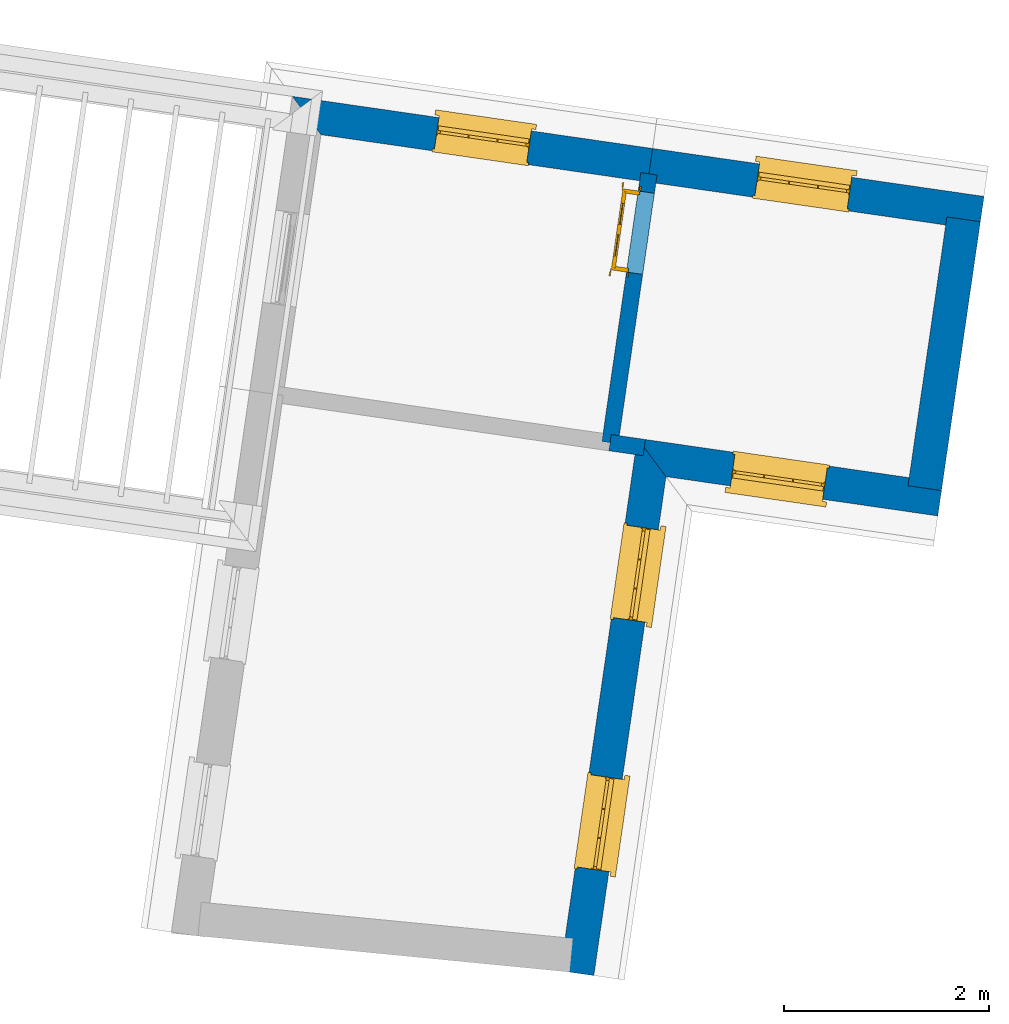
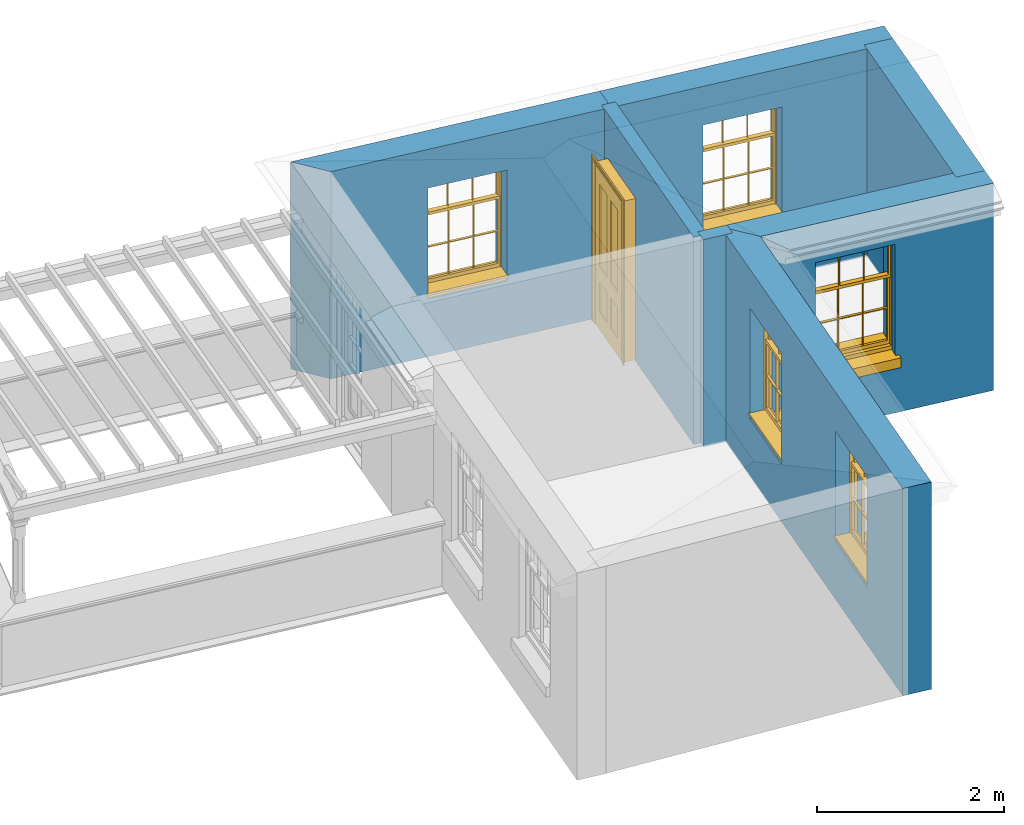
# One storey, part 3 of 4: 7 walls, 5 windows, 1 door, 6 openings.
"""IFC4 building model written with IfcOpenShell, lengths in metres."""

from ifc_helpers import new_model, si_unit, frame, origin, origin_with_axes, place, context, subcontext, project, spatial, polyline, outline, extrude, faceted_brep, source, transform, mapped, material, layer, layer_set, layer_usage, type_object, type_shapes, element, fill, save


model = new_model("IFC4")

# Units and contexts
model_context = context("Model", 3, world=origin_with_axes())
body_context = subcontext(model_context, "Body", "Model", "MODEL_VIEW")
ifc_project = project(units=[si_unit("PLANEANGLEUNIT", "RADIAN"), si_unit("MASSUNIT", "GRAM", prefix="KILO"), si_unit("FORCEUNIT", "NEWTON", prefix="KILO"), si_unit("LENGTHUNIT", "METRE"), si_unit("AREAUNIT", "SQUARE_METRE"), si_unit("VOLUMEUNIT", "CUBIC_METRE")], contexts=[model_context, model_context])

# Sites, building, storey
site_1_placement = place(None, origin_with_axes())
site_1 = spatial("IfcSite", under=ifc_project, at=site_1_placement, Name="Tamar")
site_2_placement = place(site_1_placement, origin_with_axes())
site_2 = spatial("IfcSite", under=site_1, at=site_2_placement, Name="Site plot-30", CompositionType="ELEMENT")
building_placement = place(None, origin_with_axes())
building = spatial("IfcBuilding", under=site_2, at=building_placement, Name="Building plot-30", CompositionType="ELEMENT")
storey_placement = place(None, frame((0.0, 0.0, 31.0), z_axis=(0.0, 0.0, 1.0), x_axis=(1.0, 0.0, 0.0)))
storey = spatial("IfcBuildingStorey", under=building, at=storey_placement, Name="plot-30 2", CompositionType="ELEMENT", Elevation=31.0)

# Wall, openings, windows
ifc_material_1 = material(Name="Masonry")
ifc_layer_1 = layer(ifc_material_1, 0.33, ventilated=False)
ifc_layer_set_1 = layer_set([ifc_layer_1], Name="exterior_0.08_0.25")
ifc_layer_usage_1 = layer_usage(ifc_layer_set_1, "AXIS2", "POSITIVE", -0.25)
wall_type_1 = type_object("IfcWallType", Name="exterior_0.08_0.25", PredefinedType="SOLIDWALL", material=ifc_layer_set_1)
wall_1_placement = place(storey_placement, frame((288.901284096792, 255.491842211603, 0.0), z_axis=(0.0, 0.0, 1.0), x_axis=(0.143119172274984, 0.989705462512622, 0.0)))
wall_1 = element("IfcWall", 1, at=wall_1_placement, inside=storey, type_object=wall_type_1, material=ifc_layer_usage_1, Name="exterior", context=body_context, shape_type="SweptSolid", body=[
    extrude(outline(polyline([(-0.250000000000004, 0.0800000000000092), (-0.249999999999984, -0.249999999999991), (4.66741889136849, -0.249999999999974), (4.9974188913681, 0.0800000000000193), (-0.250000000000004, 0.0800000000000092)])), origin_with_axes(), (0.0, 0.0, 1.0), 2.7),
])
opening_1_placement = place(wall_1_placement, frame((0.774354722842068, 0.0, 0.75)))
opening_1 = element("IfcOpeningElement", 2, at=opening_1_placement, cuts=wall_1, Name="My Opening", ObjectType="Opening", context=body_context, shape_type="SweptSolid", body=[
    extrude(outline(polyline([(0.0, -0.270000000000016), (0.909999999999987, -0.269999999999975), (0.909999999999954, 1.10000000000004), (-3.33066907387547e-14, 1.1), (0.0, -0.270000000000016)])), origin_with_axes(), (0.0, 0.0, 1.0), 1.445),
])
opening_2_placement = place(wall_1_placement, frame((3.23306416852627, 0.0, 0.75)))
opening_2 = element("IfcOpeningElement", 3, at=opening_2_placement, cuts=wall_1, Name="My Opening", ObjectType="Opening", context=body_context, shape_type="SweptSolid", body=[
    extrude(outline(polyline([(0.0, -0.270000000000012), (0.909999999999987, -0.269999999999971), (0.909999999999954, 1.10000000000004), (-3.37507799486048e-14, 1.1), (0.0, -0.270000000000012)])), origin_with_axes(), (0.0, 0.0, 1.0), 1.445),
])
window_type = type_object("IfcWindowType", Name="sash_shorter", PartitioningType="DOUBLE_PANEL_HORIZONTAL", PredefinedType="NOTDEFINED")
shared_shape_1 = source(origin(), body_context, "Body", "Brep", [
    faceted_brep([(0.876875, 0.145, 0.999097), (0.876875, 0.145, 1.411875), (0.9, 0.145, 1.435), (0.033125, 0.145, 1.411875), (0.033125, 0.145, 0.999097), (0.01, 0.145, 1.435), (0.033125, 0.115, 1.411875), (0.01, 0.115, 1.435), (0.033125, 0.115, 0.999097), (0.876875, 0.115, 1.411875), (0.876875, 0.115, 0.999097), (0.9, 0.115, 1.435), (0.033125, 0.145, 0.960972), (0.01, 0.145, 0.960972), (0.033125, 0.145, 0.548195), (0.876875, 0.145, 0.960972), (0.876875, 0.145, 0.548195), (0.9, 0.145, 0.960972), (0.876875, 0.145, 0.538195), (0.876875, 0.145, 0.125417), (0.9, 0.145, 0.077167), (0.033125, 0.145, 0.125417), (0.033125, 0.145, 0.538195), (0.01, 0.145, 0.077167), (0.9, 0.115, 0.960972), (0.01, 0.115, 0.960972), (-0.0425, 0.0, 0.01), (-0.0425, -0.05, 0.001667), (0.0, 0.0, 0.01), (0.9525, 0.0, 0.01), (0.91, 0.0, 0.01), (0.9525, -0.05, 0.001667), (-0.02, 0.33, 0.077167), (0.0, 0.33, 0.077167), (-0.02, 0.36, 0.077167), (0.0, 0.19, 0.077167), (0.01, 0.19, 0.077167), (0.91, 0.19, 0.077167), (0.91, 0.33, 0.077167), (0.9, 0.19, 0.077167), (0.93, 0.33, 0.077167), (0.93, 0.36, 0.077167), (0.01, 0.145, 0.999097), (0.01, 0.175, 0.999097), (0.9, 0.145, 0.999097), (0.9, 0.175, 0.999097), (0.876875, 0.175, 0.125417), (0.876875, 0.175, 0.538195), (0.9, 0.175, 0.077167), (0.876875, 0.175, 0.548195), (0.876875, 0.175, 0.960972), (0.033125, 0.175, 0.125417), (0.01, 0.175, 0.077167), (0.033125, 0.175, 0.538195), (0.033125, 0.175, 0.960972), (0.033125, 0.175, 0.548195), (-0.02, 0.33, 0.052167), (-0.02, 0.36, 0.052167), (0.93, 0.36, 0.052167), (0.93, 0.33, 0.052167), (0.91, 0.33, 0.052167), (0.0, 0.33, 0.052167), (0.91, 0.1, 0.026667), (0.0, 0.1, 0.026667), (-0.0425, -0.05, -0.123333), (0.9525, -0.05, -0.123333), (-0.0425, 0.0, -0.123333), (0.9525, 0.0, -0.123333), (0.01, 0.19, 1.435), (0.9, 0.19, 1.435), (0.0, 0.19, 1.445), (0.91, 0.19, 1.445), (0.01, 0.1, 0.077167), (0.9, 0.1, 0.077167), (0.592292, 0.145, 0.125417), (0.592292, 0.175, 0.125417), (0.317708, 0.175, 0.125417), (0.317708, 0.145, 0.125417), (0.592292, 0.145, 0.548195), (0.317708, 0.145, 0.548195), (0.317708, 0.145, 0.538195), (0.592292, 0.145, 0.538195), (0.592292, 0.175, 0.548195), (0.317708, 0.175, 0.548195), (0.602292, 0.175, 0.548195), (0.602292, 0.145, 0.548195), (0.317708, 0.175, 0.538195), (0.307708, 0.175, 0.125417), (0.307708, 0.175, 0.538195), (0.602292, 0.175, 0.538195), (0.602292, 0.175, 0.125417), (0.592292, 0.175, 0.538195), (0.307708, 0.175, 0.548195), (0.317708, 0.175, 0.960972), (0.307708, 0.175, 0.960972), (0.602292, 0.175, 0.960972), (0.592292, 0.175, 0.960972), (0.307708, 0.145, 0.538195), (0.307708, 0.145, 0.125417), (0.307708, 0.145, 0.548195), (0.307708, 0.145, 0.960972), (0.592292, 0.145, 0.960972), (0.317708, 0.145, 0.960972), (0.602292, 0.145, 0.960972), (0.602292, 0.145, 0.538195), (0.602292, 0.145, 0.125417), (0.317708, 0.115, 1.411875), (0.307708, 0.115, 1.411875), (0.307708, 0.115, 0.999097), (0.317708, 0.115, 0.999097), (0.602292, 0.115, 1.411875), (0.592292, 0.115, 1.411875), (0.592292, 0.115, 0.999097), (0.602292, 0.115, 0.999097), (0.317708, 0.145, 0.999097), (0.307708, 0.145, 0.999097), (0.307708, 0.145, 1.411875), (0.317708, 0.145, 1.411875), (0.602292, 0.145, 0.999097), (0.592292, 0.145, 0.999097), (0.592292, 0.145, 1.411875), (0.602292, 0.145, 1.411875), (0.91, 0.1, 1.445), (0.9, 0.1, 1.435), (0.01, 0.1, 1.435), (0.0, 0.1, 1.445), (0.91, 0.0, 0.0), (0.0, 0.0, 0.0), (0.91, 0.33, 0.0), (0.0, 0.33, 0.0)], [[[0, 1, 2]], [[3, 4, 5]], [[6, 7, 8]], [[9, 10, 11]], [[12, 13, 14]], [[15, 16, 17]], [[18, 19, 20]], [[21, 22, 23]], [[24, 15, 17]], [[13, 12, 25]], [[26, 27, 28]], [[29, 30, 31]], [[32, 33, 34]], [[35, 36, 33]], [[37, 38, 39]], [[40, 41, 38]], [[42, 4, 43]], [[44, 45, 0]], [[46, 47, 48]], [[49, 50, 45]], [[51, 52, 53]], [[54, 55, 43]], [[38, 33, 36, 39]], [[41, 34, 33, 38]], [[56, 32, 34, 57]], [[57, 34, 41, 58]], [[58, 41, 40, 59]], [[57, 58, 60, 61]], [[52, 48, 39, 36]], [[62, 63, 28, 30]], [[27, 31, 30, 28]], [[27, 64, 65, 31]], [[66, 67, 65, 64]], [[2, 5, 68, 69]], [[68, 70, 71, 69]], [[20, 23, 72, 73]], [[73, 72, 63, 62]], [[74, 75, 76, 77]], [[78, 79, 80, 81]], [[78, 82, 83, 79]], [[16, 49, 84, 85]], [[86, 76, 87, 88]], [[89, 90, 75, 91]], [[92, 88, 53, 55]], [[82, 91, 86, 83]], [[93, 83, 92, 94]], [[95, 84, 82, 96]], [[89, 84, 49, 47]], [[97, 88, 87, 98]], [[22, 53, 88, 97]], [[81, 91, 75, 74]], [[80, 86, 91, 81]], [[77, 76, 86, 80]], [[99, 92, 55, 14]], [[100, 94, 92, 99]], [[101, 96, 82, 78]], [[79, 83, 93, 102]], [[85, 84, 95, 103]], [[104, 89, 47, 18]], [[105, 90, 89, 104]], [[104, 18, 16, 85]], [[80, 97, 98, 77]], [[104, 81, 74, 105]], [[103, 101, 78, 85]], [[99, 14, 22, 97]], [[102, 100, 99, 79]], [[106, 107, 108, 109]], [[110, 111, 112, 113]], [[114, 115, 116, 117]], [[118, 119, 120, 121]], [[107, 116, 115, 108]], [[111, 120, 119, 112]], [[109, 114, 117, 106]], [[113, 118, 121, 110]], [[85, 78, 81, 104]], [[84, 89, 91, 82]], [[83, 86, 88, 92]], [[79, 99, 97, 80]], [[109, 112, 119, 114]], [[102, 93, 96, 101]], [[106, 117, 120, 111]], [[98, 87, 51, 21]], [[6, 3, 116, 107]], [[110, 121, 1, 9]], [[19, 46, 90, 105]], [[26, 66, 64, 27]], [[29, 31, 65, 67]], [[25, 24, 112, 109]], [[11, 7, 106, 111]], [[75, 48, 52, 76]], [[43, 45, 96, 93]], [[45, 43, 114, 119]], [[5, 2, 120, 117]], [[24, 25, 102, 101]], [[42, 5, 4]], [[2, 44, 0]], [[49, 45, 48, 47]], [[52, 43, 55, 53]], [[14, 13, 23, 22]], [[20, 17, 16, 18]], [[24, 11, 10]], [[25, 8, 7]], [[8, 4, 3, 6]], [[9, 1, 0, 10]], [[15, 50, 49, 16]], [[18, 47, 46, 19]], [[21, 51, 53, 22]], [[14, 55, 54, 12]], [[44, 2, 69, 45]], [[68, 5, 42, 43]], [[36, 35, 70, 68]], [[39, 69, 71, 37]], [[62, 122, 123, 73]], [[63, 72, 124, 125]], [[8, 108, 115, 4]], [[113, 10, 0, 118]], [[94, 100, 12, 54]], [[17, 20, 73, 24]], [[72, 23, 13, 25]], [[52, 36, 68, 43]], [[69, 39, 48, 45]], [[11, 24, 73, 123]], [[7, 124, 72, 25]], [[23, 77, 98]], [[98, 21, 23]], [[105, 74, 20]], [[20, 19, 105]], [[20, 74, 77, 23]], [[113, 112, 24]], [[24, 10, 113]], [[25, 109, 108]], [[108, 8, 25]], [[110, 9, 11]], [[11, 111, 110]], [[7, 6, 107]], [[107, 106, 7]], [[5, 117, 116]], [[116, 3, 5]], [[121, 120, 2]], [[2, 1, 121]], [[11, 123, 124, 7]], [[122, 125, 124, 123]], [[43, 93, 94]], [[94, 54, 43]], [[96, 45, 95]], [[50, 95, 45]], [[15, 103, 95, 50]], [[48, 75, 90]], [[90, 46, 48]], [[87, 76, 52]], [[52, 51, 87]], [[103, 15, 24]], [[24, 101, 103]], [[100, 102, 25]], [[25, 12, 100]], [[115, 114, 43]], [[43, 4, 115]], [[118, 0, 45]], [[45, 119, 118]], [[71, 70, 125, 122]], [[70, 35, 63, 125]], [[122, 62, 37, 71]], [[126, 67, 66, 127]], [[60, 58, 59]], [[38, 60, 59, 40]], [[61, 56, 57]], [[32, 56, 61, 33]], [[61, 60, 128, 129]], [[62, 60, 38, 37]], [[126, 128, 60, 62]], [[33, 61, 63, 35]], [[61, 129, 127, 63]], [[128, 126, 127, 129]], [[28, 127, 66, 26]], [[63, 127, 28]], [[29, 67, 126, 30]], [[30, 126, 62]]]),
])
type_shapes(window_type, [shared_shape_1])
window_1_placement = place(storey_placement, frame((289.279329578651, 256.219583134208, 0.75), z_axis=(0.0, 0.0, 1.0), x_axis=(0.130238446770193, 0.900631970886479, 0.0)))
window_1 = element("IfcWindow", 4, at=window_1_placement, inside=storey, type_object=window_type, Name="bedroom sahn window", OverallHeight=1.445, OverallWidth=0.91, context=body_context, shape_type="MappedRepresentation", body=[
    mapped(shared_shape_1, transform((0.0, 0.0, 0.0), scale=1.0)),
])
fill(opening_1, window_1)
window_2_placement = place(storey_placement, frame((289.631218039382, 258.652981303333, 0.75), z_axis=(0.0, 0.0, 1.0), x_axis=(0.130238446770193, 0.900631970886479, 0.0)))
window_2 = element("IfcWindow", 5, at=window_2_placement, inside=storey, type_object=window_type, Name="bedroom sahn window", OverallHeight=1.445, OverallWidth=0.91, context=body_context, shape_type="MappedRepresentation", body=[
    mapped(shared_shape_1, transform((0.0, 0.0, 0.0), scale=1.0)),
])
fill(opening_2, window_2)

# Wall, opening, window
wall_2_placement = place(storey_placement, frame((289.605061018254, 260.358638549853, 0.0), z_axis=(0.0, 0.0, 1.0), x_axis=(0.98970546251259, -0.143119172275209, 0.0)))
wall_2 = element("IfcWall", 6, at=wall_2_placement, inside=storey, type_object=wall_type_1, material=ifc_layer_usage_1, Name="exterior", context=body_context, shape_type="SweptSolid", body=[
    extrude(outline(polyline([(-0.0800000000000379, 0.0799999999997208), (0.250000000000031, -0.249999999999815), (2.92910276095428, -0.249999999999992), (2.92910276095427, 0.0800000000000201), (-0.0800000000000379, 0.0799999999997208)])), origin_with_axes(), (0.0, 0.0, 1.0), 2.7),
])
opening_3_placement = place(wall_2_placement, frame((0.884551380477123, 0.0, 0.75)))
opening_3 = element("IfcOpeningElement", 7, at=opening_3_placement, cuts=wall_2, Name="My Opening", ObjectType="Opening", context=body_context, shape_type="SweptSolid", body=[
    extrude(outline(polyline([(0.0, -0.270000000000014), (0.91000000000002, -0.26999999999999), (0.91000000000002, 1.10000000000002), (-1.11022302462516e-16, 1.09999999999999), (0.0, -0.270000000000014)])), origin_with_axes(), (0.0, 0.0, 1.0), 1.445),
])
window_3_placement = place(storey_placement, frame((290.441864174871, 259.964821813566, 0.75), z_axis=(0.0, 0.0, 1.0), x_axis=(0.900631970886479, -0.13023844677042, 0.0)))
window_3 = element("IfcWindow", 8, at=window_3_placement, inside=storey, type_object=window_type, Name="toilet sahn window", OverallHeight=1.445, OverallWidth=0.91, context=body_context, shape_type="MappedRepresentation", body=[
    mapped(shared_shape_1, transform((0.0, 0.0, 0.0), scale=1.0)),
])
fill(opening_3, window_3)

wall_3_placement = place(storey_placement, frame((292.635763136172, 262.59733009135, 0.0), z_axis=(0.0, 0.0, 1.0), x_axis=(-0.989705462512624, 0.143119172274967, 0.0)))
wall_3 = element("IfcWall", 9, at=wall_3_placement, inside=storey, type_object=wall_type_1, material=ifc_layer_usage_1, Name="exterior", context=body_context, shape_type="SweptSolid", body=[
    extrude(outline(polyline([(-0.249999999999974, 0.0800000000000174), (-0.249999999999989, -0.249999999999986), (3.01646015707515, -0.249999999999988), (3.01646015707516, 0.0800000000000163), (-0.249999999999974, 0.0800000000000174)])), origin_with_axes(), (0.0, 0.0, 1.0), 2.7),
])
opening_4_placement = place(wall_3_placement, frame((1.05323007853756, 0.0, 0.75)))
opening_4 = element("IfcOpeningElement", 10, at=opening_4_placement, cuts=wall_3, Name="My Opening", ObjectType="Opening", context=body_context, shape_type="SweptSolid", body=[
    extrude(outline(polyline([(0.0, -0.269999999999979), (0.909999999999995, -0.270000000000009), (0.909999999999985, 1.10000000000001), (-1.06581410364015e-14, 1.10000000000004), (0.0, -0.269999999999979)])), origin_with_axes(), (0.0, 0.0, 1.0), 1.445),
])
window_4_placement = place(storey_placement, frame((291.632017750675, 263.015287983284, 0.75), z_axis=(0.0, 0.0, 1.0), x_axis=(-0.900631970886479, 0.13023844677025, 0.0)))
window_4 = element("IfcWindow", 11, at=window_4_placement, inside=storey, type_object=window_type, Name="toilet outside window", OverallHeight=1.445, OverallWidth=0.91, context=body_context, shape_type="MappedRepresentation", body=[
    mapped(shared_shape_1, transform((0.0, 0.0, 0.0), scale=1.0)),
])
fill(opening_4, window_4)

wall_4_placement = place(storey_placement, frame((289.650356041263, 263.029043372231, 0.0), z_axis=(0.0, 0.0, 1.0), x_axis=(-0.989705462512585, 0.143119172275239, 0.0)))
wall_4 = element("IfcWall", 12, at=wall_4_placement, inside=storey, type_object=wall_type_1, material=ifc_layer_usage_1, Name="exterior", context=body_context, shape_type="SweptSolid", body=[
    extrude(outline(polyline([(-8.41503283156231e-15, 0.0800000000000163), (6.75168679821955e-14, -0.249999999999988), (3.55101735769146, -0.250000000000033), (3.22101735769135, 0.0800000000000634), (-8.41503283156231e-15, 0.0800000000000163)])), origin_with_axes(), (0.0, 0.0, 1.0), 2.7),
])
opening_5_placement = place(wall_4_placement, frame((1.19550867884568, 0.0, 0.75)))
opening_5 = element("IfcOpeningElement", 13, at=opening_5_placement, cuts=wall_4, Name="My Opening", ObjectType="Opening", context=body_context, shape_type="SweptSolid", body=[
    extrude(outline(polyline([(0.0, -0.270000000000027), (0.910000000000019, -0.269999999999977), (0.910000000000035, 1.10000000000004), (1.53210777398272e-14, 1.09999999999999), (0.0, -0.270000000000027)])), origin_with_axes(), (0.0, 0.0, 1.0), 1.445),
])
window_5_placement = place(storey_placement, frame((288.505796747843, 263.467364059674, 0.75), z_axis=(0.0, 0.0, 1.0), x_axis=(-0.900631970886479, 0.13023844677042, 0.0)))
window_5 = element("IfcWindow", 14, at=window_5_placement, inside=storey, type_object=window_type, Name="circulation outside window", OverallHeight=1.445, OverallWidth=0.91, context=body_context, shape_type="MappedRepresentation", body=[
    mapped(shared_shape_1, transform((0.0, 0.0, 0.0), scale=1.0)),
])
fill(opening_5, window_5)

# Walls
ifc_material_2 = material(Name="Masonry")
ifc_layer_2 = layer(ifc_material_2, 0.33, ventilated=False)
ifc_layer_set_2 = layer_set([ifc_layer_2], Name="party_0.08_0.25")
ifc_layer_usage_2 = layer_usage(ifc_layer_set_2, "AXIS2", "POSITIVE", -0.25)
wall_type_2 = type_object("IfcWallType", Name="party_0.08_0.25", PredefinedType="SOLIDWALL", material=ifc_layer_set_2)
wall_5_placement = place(storey_placement, frame((292.256583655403, 259.975207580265, 0.0), z_axis=(0.0, 0.0, 1.0), x_axis=(0.143119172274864, 0.98970546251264, 0.0)))
element("IfcWall", 15, at=wall_5_placement, inside=storey, type_object=wall_type_2, material=ifc_layer_usage_2, Name="party", context=body_context, shape_type="SweptSolid", body=[
    extrude(outline(polyline([(2.18540877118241e-14, 0.0800000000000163), (-2.71851560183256e-14, -0.249999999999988), (2.64939682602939, -0.249999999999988), (2.64939682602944, 0.0800000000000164), (2.18540877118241e-14, 0.0800000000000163)])), origin_with_axes(), (0.0, 0.0, 1.0), 2.7),
])
ifc_material_3 = material(Name="Masonry")
ifc_layer_3 = layer(ifc_material_3, 0.16, ventilated=False)
ifc_layer_set_3 = layer_set([ifc_layer_3], Name="interior_0.08_0.08")
ifc_layer_usage_3 = layer_usage(ifc_layer_set_3, "AXIS2", "POSITIVE", -0.08)
wall_type_3 = type_object("IfcWallType", Name="interior_0.08_0.08", PredefinedType="SOLIDWALL", material=ifc_layer_set_3)
wall_6_placement = place(storey_placement, frame((289.605061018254, 260.358638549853, 0.0), z_axis=(0.0, 0.0, 1.0), x_axis=(-0.9897054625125, 0.143119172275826, 0.0)))
element("IfcWall", 16, at=wall_6_placement, inside=storey, type_object=wall_type_3, material=ifc_layer_usage_3, Name="interior", context=body_context, shape_type="SweptSolid", body=[
    extrude(outline(polyline([(3.24642818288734e-16, 0.0800000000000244), (-3.3260921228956e-16, -0.0800000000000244), (0.33735739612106, -0.0800000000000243), (0.337357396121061, 0.0800000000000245), (3.24642818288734e-16, 0.0800000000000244)])), origin_with_axes(), (0.0, 0.0, 1.0), 2.7),
])

# Wall, opening, door
wall_7_placement = place(storey_placement, frame((289.271176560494, 260.406920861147, 0.0), z_axis=(0.0, 0.0, 1.0), x_axis=(0.143119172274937, 0.989705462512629, 0.0)))
wall_7 = element("IfcWall", 17, at=wall_7_placement, inside=storey, type_object=wall_type_3, material=ifc_layer_usage_3, Name="interior", context=body_context, shape_type="SweptSolid", body=[
    extrude(outline(polyline([(1.59743465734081e-14, 0.0800000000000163), (-1.59823129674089e-14, -0.0800000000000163), (2.64939682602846, -0.0800000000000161), (2.64939682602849, 0.0800000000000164), (1.59743465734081e-14, 0.0800000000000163)])), origin_with_axes(), (0.0, 0.0, 1.0), 2.7),
])
opening_6_placement = place(wall_7_placement, frame((1.66939682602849, 0.0, 0.0199999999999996)))
opening_6 = element("IfcOpeningElement", 18, at=opening_6_placement, cuts=wall_7, Name="My Opening", ObjectType="Opening", context=body_context, shape_type="SweptSolid", body=[
    extrude(outline(polyline([(0.0, -0.100000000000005), (0.800000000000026, -0.100000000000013), (0.800000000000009, 1.10000000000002), (-1.68753899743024e-14, 1.10000000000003), (0.0, -0.100000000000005)])), origin_with_axes(), (0.0, 0.0, 1.0), 2.1),
])
door_type = type_object("IfcDoorType", Name="door_inside", OperationType="SINGLE_SWING_LEFT", PredefinedType="NOTDEFINED")
shared_shape_2 = source(origin(), body_context, "Body", "Brep", [
    faceted_brep([(0.773, 0.33, 1.895), (0.66, 0.33, 1.895), (0.66, 0.33, 2.073), (0.773, 0.33, 2.073), (0.773, 0.33, 0.82), (0.66, 0.33, 0.82), (0.45, 0.33, 1.895), (0.45, 0.33, 2.073), (0.773, 0.33, 0.62), (0.66, 0.33, 0.62), (0.66, 0.315, 0.82), (0.66, 0.315, 1.895), (0.45, 0.315, 1.895), (0.35, 0.33, 1.895), (0.35, 0.33, 2.073), (0.773, 0.33, 0.225), (0.66, 0.33, 0.225), (0.45, 0.33, 0.62), (0.45, 0.33, 0.82), (0.45, 0.315, 0.82), (0.35, 0.33, 0.82), (0.14, 0.33, 2.073), (0.14, 0.33, 1.895), (0.773, 0.33, 0.0), (0.66, 0.33, 0.0), (0.66, 0.315, 0.225), (0.66, 0.315, 0.62), (0.45, 0.315, 0.62), (0.35, 0.33, 0.62), (0.35, 0.315, 0.82), (0.35, 0.315, 1.895), (0.14, 0.315, 1.895), (0.027, 0.33, 2.073), (0.027, 0.33, 1.895), (0.773, 0.292, 0.0), (0.66, 0.292, 0.0), (0.45, 0.33, 0.0), (0.45, 0.33, 0.225), (0.45, 0.315, 0.225), (0.35, 0.33, 0.225), (0.14, 0.33, 0.82), (0.14, 0.33, 0.62), (0.14, 0.315, 0.82), (0.027, 0.33, 0.82), (0.773, 0.292, 0.225), (0.66, 0.292, 0.225), (0.45, 0.292, 0.0), (0.35, 0.33, 0.0), (0.35, 0.315, 0.225), (0.35, 0.315, 0.62), (0.14, 0.315, 0.62), (0.027, 0.33, 0.62), (0.773, 0.292, 0.62), (0.66, 0.292, 0.62), (0.45, 0.292, 0.225), (0.35, 0.292, 0.0), (0.14, 0.33, 0.225), (0.14, 0.33, 0.0), (0.14, 0.315, 0.225), (0.027, 0.33, 0.225), (0.773, 0.292, 0.82), (0.66, 0.292, 0.82), (0.66, 0.307, 0.62), (0.66, 0.307, 0.225), (0.45, 0.307, 0.225), (0.35, 0.292, 0.225), (0.14, 0.292, 0.0), (0.027, 0.33, 0.0), (0.773, 0.292, 1.895), (0.66, 0.292, 1.895), (0.45, 0.292, 0.62), (0.45, 0.292, 0.82), (0.45, 0.307, 0.62), (0.35, 0.292, 0.62), (0.14, 0.292, 0.225), (0.027, 0.292, 0.0), (0.773, 0.292, 2.073), (0.66, 0.292, 2.073), (0.66, 0.307, 1.895), (0.66, 0.307, 0.82), (0.45, 0.307, 0.82), (0.35, 0.292, 0.82), (0.35, 0.307, 0.62), (0.35, 0.307, 0.225), (0.14, 0.307, 0.225), (0.027, 0.292, 0.225), (0.45, 0.292, 1.895), (0.45, 0.292, 2.073), (0.45, 0.307, 1.895), (0.35, 0.292, 1.895), (0.14, 0.292, 0.82), (0.14, 0.292, 0.62), (0.14, 0.307, 0.62), (0.027, 0.292, 0.62), (0.35, 0.292, 2.073), (0.35, 0.307, 1.895), (0.35, 0.307, 0.82), (0.14, 0.307, 0.82), (0.027, 0.292, 0.82), (0.14, 0.292, 2.073), (0.14, 0.292, 1.895), (0.14, 0.307, 1.895), (0.027, 0.292, 1.895), (0.027, 0.292, 2.073), (0.02, 0.335, 0.0), (0.005, 0.34, 0.0), (0.005, 0.34, 2.095), (0.02, 0.335, 2.08), (0.02, 0.33, 0.0), (0.0, 0.335, 0.0), (0.0, 0.335, 2.1), (0.795, 0.34, 2.095), (0.78, 0.335, 2.08), (0.02, 0.33, 2.08), (0.0, 0.33, 0.0), (-0.032, 0.345, 0.0), (-0.032, 0.345, 2.132), (0.8, 0.335, 2.1), (0.795, 0.34, 0.0), (0.78, 0.335, 0.0), (0.78, 0.33, 2.08), (0.04, 0.29, 0.0), (0.025, 0.29, 0.0), (0.025, 0.29, 2.075), (0.04, 0.29, 2.06), (-0.04, 0.34, 0.0), (-0.04, 0.34, 2.14), (0.832, 0.345, 2.132), (0.8, 0.335, 0.0), (0.78, 0.33, 0.0), (0.8, 0.33, 0.0), (0.86, 0.33, 0.0), (0.86, 0.33, 2.16), (0.8, 0.33, 2.1), (-0.06, 0.33, 2.16), (0.0, 0.33, 2.1), (-0.06, 0.33, 0.0), (-0.04, 0.345, 0.0), (-0.04, 0.345, 2.14), (0.84, 0.34, 2.14), (0.832, 0.345, 0.0), (0.84, 0.34, 0.0), (0.86, 0.345, 0.0), (0.86, 0.345, 2.16), (-0.06, 0.345, 2.16), (-0.06, 0.345, 0.0), (0.84, 0.345, 0.0), (0.84, 0.345, 2.14), (-0.025, 0.155, 0.0), (-0.025, 0.16, 0.0), (-0.025, 0.16, 2.125), (-0.025, 0.155, 2.125), (-0.017, 0.155, 0.0), (-0.017, 0.155, 2.117), (0.825, 0.16, 2.125), (0.825, 0.155, 2.125), (0.825, 0.155, 0.0), (0.845, 0.155, 0.0), (-0.045, 0.155, 2.145), (-0.045, 0.155, 0.0), (0.845, 0.155, 2.145), (0.015, 0.165, 0.0), (0.015, 0.165, 2.085), (0.817, 0.155, 2.117), (0.825, 0.16, 0.0), (0.845, 0.17, 0.0), (0.845, 0.17, 2.145), (-0.045, 0.17, 2.145), (-0.045, 0.17, 0.0), (0.02, 0.16, 0.0), (0.02, 0.16, 2.08), (0.785, 0.165, 2.085), (0.817, 0.155, 0.0), (0.8, 0.17, 0.0), (0.8, 0.17, 2.1), (0.0, 0.17, 2.1), (0.0, 0.17, 0.0), (0.035, 0.165, 0.0), (0.035, 0.165, 2.065), (0.78, 0.16, 2.08), (0.785, 0.165, 0.0), (0.775, 0.29, 2.075), (0.76, 0.29, 2.06), (0.035, 0.17, 2.065), (0.035, 0.17, 0.0), (0.765, 0.165, 2.065), (0.78, 0.16, 0.0), (0.765, 0.17, 0.0), (0.765, 0.17, 2.065), (0.765, 0.165, 0.0), (0.04, 0.17, 2.06), (0.04, 0.17, 0.0), (0.76, 0.17, 2.06), (0.76, 0.17, 0.0), (0.76, 0.29, 0.0), (0.775, 0.29, 0.0), (0.025, 0.33, 0.0), (0.025, 0.33, 2.075), (0.775, 0.33, 0.0), (0.775, 0.33, 2.075)], [[[0, 1, 2, 3]], [[1, 0, 4, 5]], [[1, 6, 7, 2]], [[8, 9, 5, 4]], [[1, 5, 10, 11]], [[6, 1, 11, 12]], [[6, 13, 14, 7]], [[15, 16, 9, 8]], [[9, 17, 18, 5]], [[5, 18, 19, 10]], [[10, 19, 12, 11]], [[18, 6, 12, 19]], [[18, 20, 13, 6]], [[21, 14, 13, 22]], [[23, 24, 16, 15]], [[9, 16, 25, 26]], [[17, 9, 26, 27]], [[17, 28, 20, 18]], [[13, 20, 29, 30]], [[22, 13, 30, 31]], [[32, 21, 22, 33]], [[34, 35, 24, 23]], [[24, 36, 37, 16]], [[16, 37, 38, 25]], [[25, 38, 27, 26]], [[37, 17, 27, 38]], [[37, 39, 28, 17]], [[40, 20, 28, 41]], [[20, 40, 42, 29]], [[31, 30, 29, 42]], [[40, 22, 31, 42]], [[33, 22, 40, 43]], [[35, 34, 44, 45]], [[35, 46, 36, 24]], [[36, 47, 39, 37]], [[28, 39, 48, 49]], [[41, 28, 49, 50]], [[43, 40, 41, 51]], [[45, 44, 52, 53]], [[46, 35, 45, 54]], [[46, 55, 47, 36]], [[56, 39, 47, 57]], [[39, 56, 58, 48]], [[50, 49, 48, 58]], [[56, 41, 50, 58]], [[51, 41, 56, 59]], [[53, 52, 60, 61]], [[45, 53, 62, 63]], [[54, 45, 63, 64]], [[55, 46, 54, 65]], [[55, 66, 57, 47]], [[59, 56, 57, 67]], [[61, 60, 68, 69]], [[70, 53, 61, 71]], [[53, 70, 72, 62]], [[72, 64, 63, 62]], [[70, 54, 64, 72]], [[65, 54, 70, 73]], [[65, 74, 66, 55]], [[67, 57, 66, 75]], [[69, 68, 76, 77]], [[61, 69, 78, 79]], [[71, 61, 79, 80]], [[73, 70, 71, 81]], [[65, 73, 82, 83]], [[74, 65, 83, 84]], [[74, 85, 75, 66]], [[86, 69, 77, 87]], [[69, 86, 88, 78]], [[88, 80, 79, 78]], [[86, 71, 80, 88]], [[81, 71, 86, 89]], [[73, 81, 90, 91]], [[73, 91, 92, 82]], [[83, 82, 92, 84]], [[91, 74, 84, 92]], [[91, 93, 85, 74]], [[89, 86, 87, 94]], [[81, 89, 95, 96]], [[90, 81, 96, 97]], [[90, 98, 93, 91]], [[94, 99, 100, 89]], [[89, 100, 101, 95]], [[101, 97, 96, 95]], [[100, 90, 97, 101]], [[100, 102, 98, 90]], [[99, 103, 102, 100]], [[32, 103, 99, 21]], [[102, 103, 32, 33]], [[98, 102, 33, 43]], [[21, 99, 94, 14]], [[94, 87, 7, 14]], [[7, 87, 77, 2]], [[76, 3, 2, 77]], [[43, 51, 93, 98]], [[51, 59, 85, 93]], [[67, 75, 85, 59]], [[34, 23, 15, 44]], [[44, 15, 8, 52]], [[52, 8, 4, 60]], [[0, 68, 60, 4]], [[0, 3, 76, 68]], [[104, 105, 106, 107]], [[104, 108, 109, 105]], [[105, 109, 110, 106]], [[107, 106, 111, 112]], [[107, 113, 108, 104]], [[114, 109, 108]], [[109, 115, 116, 110]], [[106, 110, 117, 111]], [[112, 111, 118, 119]], [[113, 107, 112, 120]], [[121, 122, 123, 124]], [[115, 109, 114, 125]], [[115, 125, 126, 116]], [[110, 116, 127, 117]], [[111, 117, 128, 118]], [[118, 128, 129, 119]], [[120, 112, 119, 129]], [[130, 129, 128]], [[130, 131, 132, 133]], [[133, 132, 134, 135]], [[135, 134, 136, 114]], [[136, 125, 114]], [[125, 137, 138, 126]], [[116, 126, 139, 127]], [[117, 127, 140, 128]], [[141, 130, 128, 140]], [[131, 130, 141]], [[131, 142, 143, 132]], [[132, 143, 144, 134]], [[134, 144, 145, 136]], [[137, 125, 136, 145]], [[143, 142, 146]], [[143, 146, 147]], [[137, 145, 144]], [[143, 147, 138]], [[138, 137, 144]], [[143, 138, 144]], [[126, 138, 147, 139]], [[127, 139, 141, 140]], [[142, 131, 141, 146]], [[139, 147, 146, 141]], [[148, 149, 150, 151]], [[149, 152, 153, 150]], [[151, 150, 154, 155]], [[155, 156, 157]], [[158, 159, 148]], [[158, 148, 151]], [[155, 157, 160]], [[158, 151, 155]], [[155, 160, 158]], [[152, 161, 162, 153]], [[150, 153, 163, 154]], [[155, 154, 164, 156]], [[156, 164, 165, 157]], [[157, 165, 166, 160]], [[160, 166, 167, 158]], [[158, 167, 168, 159]], [[161, 169, 170, 162]], [[153, 162, 171, 163]], [[154, 163, 172, 164]], [[165, 164, 173]], [[165, 173, 174, 166]], [[166, 174, 175, 167]], [[167, 175, 176, 168]], [[169, 177, 178, 170]], [[162, 170, 179, 171]], [[163, 171, 180, 172]], [[172, 180, 173, 164]], [[124, 123, 181, 182]], [[183, 178, 177, 184]], [[170, 178, 185, 179]], [[171, 179, 186, 180]], [[187, 173, 180]], [[185, 188, 187, 189]], [[188, 185, 178, 183]], [[179, 185, 189, 186]], [[189, 187, 180, 186]], [[190, 183, 184, 191]], [[192, 188, 183, 190]], [[191, 184, 122, 121]], [[124, 190, 191, 121]], [[193, 187, 188, 192]], [[182, 192, 190, 124]], [[184, 176, 122]], [[194, 195, 187, 193]], [[192, 182, 194, 193]], [[161, 176, 184]], [[114, 108, 122, 176]], [[173, 187, 195]], [[152, 149, 176, 161]], [[169, 161, 184, 177]], [[196, 122, 108]], [[176, 175, 135, 114]], [[173, 195, 129, 130]], [[176, 149, 168]], [[123, 122, 196, 197]], [[196, 108, 113, 197]], [[175, 174, 133, 135]], [[198, 129, 195]], [[133, 174, 173, 130]], [[159, 168, 149, 148]], [[181, 123, 197, 199]], [[197, 113, 120, 199]], [[199, 120, 129, 198]], [[195, 181, 199, 198]], [[195, 194, 182, 181]]]),
])
type_shapes(door_type, [shared_shape_2])
door_placement = place(storey_placement, frame((289.609069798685, 262.044820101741, 0.0199999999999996), z_axis=(0.0, 0.0, 1.0), x_axis=(0.11449533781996, 0.791764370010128, 0.0)))
door = element("IfcDoor", 19, at=door_placement, inside=storey, type_object=door_type, Name="toilet inside door", OverallHeight=2.1, OverallWidth=0.8, context=body_context, shape_type="MappedRepresentation", body=[
    mapped(shared_shape_2, transform((0.0, 0.0, 0.0), scale=1.0)),
])
fill(opening_6, door)

save(model, "model.ifc")
